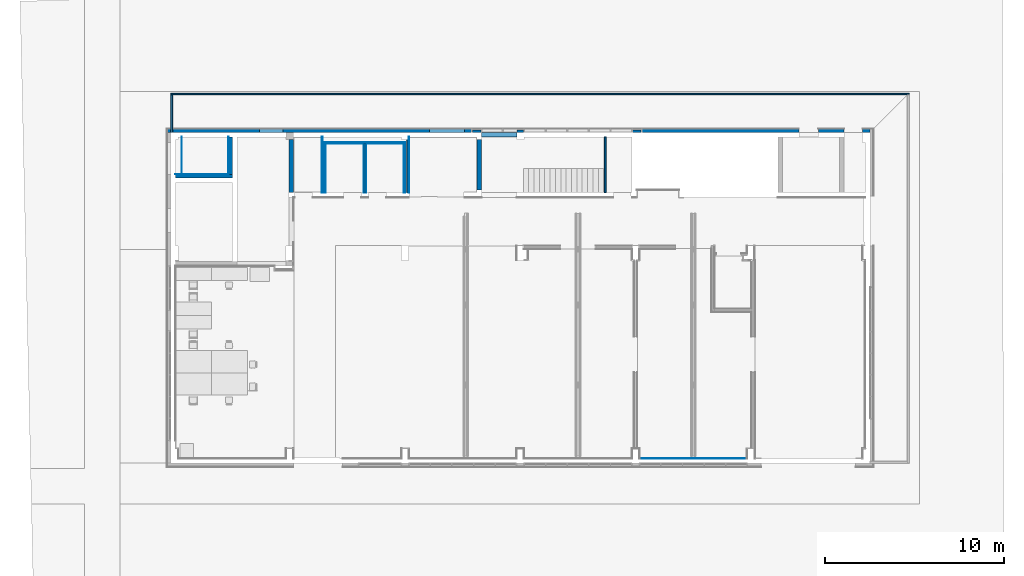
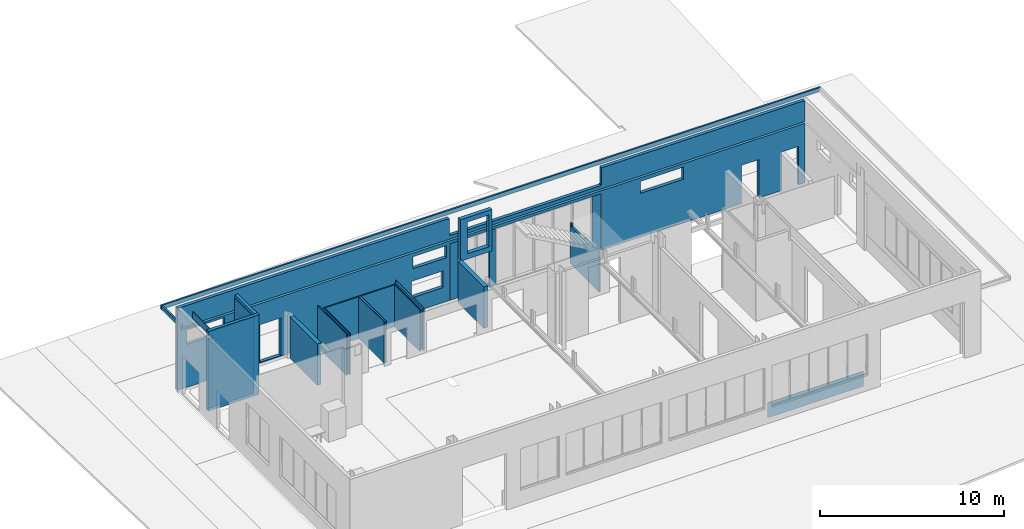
# One storey, part 15 of 27: 30 walls, 15 openings.
"""IFC2X3 building model written with IfcOpenShell, lengths in centimetres."""

from ifc_helpers import new_model, entity, si_unit, converted_unit, derived_unit, direction, frame, frame_2d, origin, origin_2d_with_axis, place, context, subcontext, project, spatial, polyline, rectangle, outline, extrude, clip, bounded_halfspace, faceted_brep, material, layer, layer_set, layer_usage, type_object, element, save


model = new_model("IFC2X3")

# Units and contexts
model_context = context("Model", 3, precision=0.001, world=origin(), true_north=direction((6.12303176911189e-17, 1.0)))
body_context = subcontext(model_context, "Body", "Model", "MODEL_VIEW")
ifc_project = project(units=[si_unit("LENGTHUNIT", "METRE", prefix="CENTI"), si_unit("AREAUNIT", "SQUARE_METRE"), si_unit("VOLUMEUNIT", "CUBIC_METRE"), converted_unit("PLANEANGLEUNIT", "DEGREE", entity("IfcRatioMeasure", 0.0174532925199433), si_unit("PLANEANGLEUNIT", "RADIAN"), dimensions=[0, 0, 0, 0, 0, 0, 0]), si_unit("MASSUNIT", "GRAM", prefix="KILO"), derived_unit("MASSDENSITYUNIT", [(si_unit("MASSUNIT", "GRAM", prefix="KILO"), 1), (si_unit("LENGTHUNIT", "METRE"), -3)]), derived_unit("MOMENTOFINERTIAUNIT", [(si_unit("LENGTHUNIT", "METRE"), 4)]), si_unit("TIMEUNIT", "SECOND"), si_unit("FREQUENCYUNIT", "HERTZ"), si_unit("THERMODYNAMICTEMPERATUREUNIT", "DEGREE_CELSIUS"), derived_unit("THERMALTRANSMITTANCEUNIT", [(si_unit("MASSUNIT", "GRAM", prefix="KILO"), 1), (si_unit("THERMODYNAMICTEMPERATUREUNIT", "KELVIN"), -1), (si_unit("TIMEUNIT", "SECOND"), -3)]), derived_unit("VOLUMETRICFLOWRATEUNIT", [(si_unit("LENGTHUNIT", "METRE"), 3), (si_unit("TIMEUNIT", "SECOND"), -1)]), si_unit("ELECTRICCURRENTUNIT", "AMPERE"), si_unit("ELECTRICVOLTAGEUNIT", "VOLT"), si_unit("POWERUNIT", "WATT"), si_unit("FORCEUNIT", "NEWTON", prefix="KILO"), si_unit("ILLUMINANCEUNIT", "LUX"), si_unit("LUMINOUSFLUXUNIT", "LUMEN"), si_unit("LUMINOUSINTENSITYUNIT", "CANDELA"), derived_unit("USERDEFINED", [(si_unit("MASSUNIT", "GRAM", prefix="KILO"), -1), (si_unit("LENGTHUNIT", "METRE"), -2), (si_unit("TIMEUNIT", "SECOND"), 3), (si_unit("LUMINOUSFLUXUNIT", "LUMEN"), 1)]), derived_unit("LINEARVELOCITYUNIT", [(si_unit("LENGTHUNIT", "METRE"), 1), (si_unit("TIMEUNIT", "SECOND"), -1)]), si_unit("PRESSUREUNIT", "PASCAL"), derived_unit("USERDEFINED", [(si_unit("LENGTHUNIT", "METRE"), -2), (si_unit("MASSUNIT", "GRAM", prefix="KILO"), 1), (si_unit("TIMEUNIT", "SECOND"), -2)]), derived_unit("LINEARFORCEUNIT", [(si_unit("MASSUNIT", "GRAM", prefix="KILO"), 1), (si_unit("LENGTHUNIT", "METRE"), 1), (si_unit("TIMEUNIT", "SECOND"), -2), (si_unit("LENGTHUNIT", "METRE"), -1)]), derived_unit("PLANARFORCEUNIT", [(si_unit("MASSUNIT", "GRAM", prefix="KILO"), 1), (si_unit("LENGTHUNIT", "METRE"), 1), (si_unit("TIMEUNIT", "SECOND"), -2), (si_unit("LENGTHUNIT", "METRE"), -2)])], contexts=[model_context])

# Site, building, storey
site_placement = place(None, origin())
site = spatial("IfcSite", under=ifc_project, at=site_placement, Name="Default", CompositionType="ELEMENT")
building_placement = place(site_placement, origin())
building = spatial("IfcBuilding", under=site, at=building_placement, CompositionType="ELEMENT")
storey_placement = place(building_placement, origin())
storey = spatial("IfcBuildingStorey", under=building, at=storey_placement, Name="Poziom 0 A +/-0,00", CompositionType="ELEMENT", Elevation=3.38570427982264e-11)

# Wall
ifc_material_1 = material(Name="_Beton C30/37")
ifc_layer_1 = layer(ifc_material_1, 25.0)
ifc_layer_set_1 = layer_set([ifc_layer_1], Name="Ściana podstawowa:Ściana żelbetowa gr. 25cm")
ifc_layer_usage_1 = layer_usage(ifc_layer_set_1, "AXIS2", "NEGATIVE", 12.5)
wall_type_1 = type_object("IfcWallType", Name="Ściana podstawowa:Ściana żelbetowa gr. 25cm", PredefinedType="STANDARD", material=ifc_layer_set_1)
wall_1_placement = place(storey_placement, frame((-2261.76512441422, 2065.12745206, 0.0), z_axis=(0.0, 0.0, 1.0), x_axis=(0.0, -1.0, 0.0)))
element("IfcWallStandardCase", 1, at=wall_1_placement, inside=storey, type_object=wall_type_1, material=ifc_layer_usage_1, Name="Ściana podstawowa:Ściana żelbetowa gr. 25cm", ObjectType="Ściana podstawowa:Ściana żelbetowa gr. 25cm", context=body_context, shape_type="SweptSolid", body=[
    extrude(rectangle(XDim=297.000000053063, YDim=25.0000000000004, at=frame_2d((148.500000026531, 2.66453525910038e-15), x_axis=(-1.0, 0.0))), origin(), (0.0, 0.0, 1.0), 274.999999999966),
])

# Wall, openings
ifc_layer_usage_2 = layer_usage(ifc_layer_set_1, "AXIS2", "NEGATIVE", 12.5)
wall_2_placement = place(storey_placement, frame((-1196.76508927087, 2092.627452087, 255.0)))
wall_2 = element("IfcWallStandardCase", 2, at=wall_2_placement, inside=storey, type_object=wall_type_1, material=ifc_layer_usage_2, Name="Ściana podstawowa:Ściana żelbetowa gr. 25cm", ObjectType="Ściana podstawowa:Ściana żelbetowa gr. 25cm", context=body_context, shape_type="SweptSolid", body=[
    extrude(rectangle(XDim=197.499980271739, YDim=25.0000000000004, at=frame_2d((98.7499901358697, 0.0), x_axis=(-1.0, 0.0))), origin(), (0.0, 0.0, 1.0), 274.999999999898),
])
opening_1_placement = place(wall_2_placement, origin())
element("IfcOpeningElement", 3, at=opening_1_placement, cuts=wall_2, Name="Ściana podstawowa:Ściana żelbetowa gr. 25cm", ObjectType="Opening", context=body_context, shape_type="SweptSolid", body=[
    extrude(rectangle(XDim=265.0, YDim=197.5, at=frame_2d((0.0, -1.06581410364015e-13), x_axis=(1.0, 0.0))), frame((98.7499802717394, -139.9, -132.5), z_axis=(0.0, 1.0, 0.0), x_axis=(0.0, 0.0, -1.0)), (0.0, 0.0, 1.0), 304.8),
])
opening_2_placement = place(wall_2_placement, origin())
element("IfcOpeningElement", 4, at=opening_2_placement, cuts=wall_2, Name="Ściana podstawowa:Ściana żelbetowa gr. 25cm", ObjectType="Opening", context=body_context, shape_type="SweptSolid", body=[
    extrude(rectangle(XDim=210.0, YDim=135.0, at=frame_2d((-2.8421709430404e-14, 0.0), x_axis=(1.0, 0.0))), frame((109.999980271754, -139.9, 140.0), z_axis=(0.0, 1.0, 0.0), x_axis=(0.0, 0.0, -1.0)), (0.0, 0.0, 1.0), 304.8),
])

# Walls
ifc_layer_usage_3 = layer_usage(ifc_layer_set_1, "AXIS2", "NEGATIVE", 12.5)
wall_3_placement = place(storey_placement, frame((-1209.26499418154, 2065.12743141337, 0.0), z_axis=(0.0, 0.0, 1.0), x_axis=(0.0, -1.0, 0.0)))
element("IfcWallStandardCase", 5, at=wall_3_placement, inside=storey, type_object=wall_type_1, material=ifc_layer_usage_3, Name="Ściana podstawowa:Ściana żelbetowa gr. 25cm", ObjectType="Ściana podstawowa:Ściana żelbetowa gr. 25cm", context=body_context, shape_type="SweptSolid", body=[
    extrude(rectangle(XDim=282.0, YDim=24.9999999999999, at=frame_2d((141.0, 0.0), x_axis=(-1.0, 0.0))), origin(), (0.0, 0.0, 1.0), 274.999999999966),
])
ifc_material_2 = material(Name="Wełna skalna")
ifc_layer_2 = layer(ifc_material_2, 10.0)
ifc_layer_set_2 = layer_set([ifc_layer_2], Name="Ściana podstawowa:Ściana GK rdzeń gr. 10cm")
ifc_layer_usage_4 = layer_usage(ifc_layer_set_2, "AXIS2", "POSITIVE", -5.0)
wall_type_2 = type_object("IfcWallType", Name="Ściana podstawowa:Ściana GK rdzeń gr. 10cm", PredefinedType="STANDARD", material=ifc_layer_set_2)
wall_4_placement = place(storey_placement, frame((-1849.26511107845, 1768.12745200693, 0.0), z_axis=(0.0, 0.0, 1.0), x_axis=(0.0, 1.0, 0.0)))
element("IfcWallStandardCase", 6, at=wall_4_placement, inside=storey, type_object=wall_type_2, material=ifc_layer_usage_4, Name="Ściana podstawowa:Ściana GK rdzeń gr. 10cm", ObjectType="Ściana podstawowa:Ściana GK rdzeń gr. 10cm", context=body_context, shape_type="SweptSolid", body=[
    extrude(rectangle(XDim=276.00000006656, YDim=9.99999999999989, at=frame_2d((138.00000003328, 0.0), x_axis=(-1.0, 0.0))), origin(), (0.0, 0.0, 1.0), 274.999999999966),
])
ifc_layer_usage_5 = layer_usage(ifc_layer_set_2, "AXIS2", "POSITIVE", -5.0)
wall_5_placement = place(storey_placement, frame((-1609.26511963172, 2065.1274520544, 0.0), z_axis=(0.0, 0.0, 1.0), x_axis=(0.0, -1.0, 0.0)))
element("IfcWallStandardCase", 7, at=wall_5_placement, inside=storey, type_object=wall_type_2, material=ifc_layer_usage_5, Name="Ściana podstawowa:Ściana GK rdzeń gr. 10cm", ObjectType="Ściana podstawowa:Ściana GK rdzeń gr. 10cm", context=body_context, shape_type="SweptSolid", body=[
    extrude(rectangle(XDim=297.00000004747, YDim=9.99999999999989, at=frame_2d((148.500000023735, 0.0), x_axis=(-1.0, 0.0))), origin(), (0.0, 0.0, 1.0), 274.999999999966),
])

# Wall, openings
ifc_layer_usage_6 = layer_usage(ifc_layer_set_2, "AXIS2", "POSITIVE", -5.0)
wall_6_placement = place(storey_placement, frame((-504.265108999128, 2080.12743150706, 0.0), z_axis=(0.0, 0.0, 1.0), x_axis=(0.0, -1.0, 0.0)))
wall_6 = element("IfcWallStandardCase", 8, at=wall_6_placement, inside=storey, type_object=wall_type_2, material=ifc_layer_usage_6, Name="Ściana podstawowa:Ściana GK rdzeń gr. 10cm", ObjectType="Ściana podstawowa:Ściana GK rdzeń gr. 10cm", context=body_context, shape_type="SweptSolid", body=[
    extrude(rectangle(XDim=311.999979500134, YDim=9.99999999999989, at=frame_2d((155.999989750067, 0.0), x_axis=(-1.0, 0.0))), origin(), (0.0, 0.0, 1.0), 270.999999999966),
])
opening_3_placement = place(wall_6_placement, frame((154.999979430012, -5.0, 249.413174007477)))
element("IfcOpeningElement", 9, at=opening_3_placement, cuts=wall_6, Name="Ściana podstawowa:Ściana GK rdzeń gr. 10cm", ObjectType="Opening", context=body_context, shape_type="Brep", body=[
    faceted_brep([(-140.0, 10.0, 5.68627449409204), (-140.0, 0.0, 0.0), (-140.0, 0.0, 23.5296505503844), (-140.0, 10.0, 23.5296505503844), (0.0, 10.0, 5.68627449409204), (0.0, 10.0, 23.5296505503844), (0.0, 0.0, 23.5296505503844), (0.0, 0.0, 0.0)], [[[0, 1, 2, 3]], [[4, 5, 6, 7]], [[5, 4, 0, 3]], [[6, 5, 3, 2]], [[7, 6, 2, 1]], [[4, 7, 1, 0]]]),
])
opening_4_placement = place(wall_6_placement, origin())
element("IfcOpeningElement", 10, at=opening_4_placement, cuts=wall_6, Name="Ściana podstawowa:Ściana GK rdzeń gr. 10cm", ObjectType="Opening", context=body_context, shape_type="SweptSolid", body=[
    extrude(rectangle(XDim=10.0000000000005, YDim=139.99999998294, at=frame_2d((-1.35447209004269e-13, -1.06581410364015e-13), x_axis=(1.0, 0.0))), frame((84.9999794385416, 5.0, 266.0), z_axis=(0.0, -1.0, 0.0), x_axis=(0.0, 0.0, -1.0)), (0.0, 0.0, 1.0), 10.0),
])

# Walls
ifc_layer_3 = layer(ifc_material_2, 5.0)
ifc_layer_set_3 = layer_set([ifc_layer_3], Name="Ściana podstawowa:Ściana GK rdzeń gr. 5cm")
ifc_layer_usage_7 = layer_usage(ifc_layer_set_3, "AXIS2", "NEGATIVE", 2.5)
wall_type_3 = type_object("IfcWallType", Name="Ściana podstawowa:Ściana GK rdzeń gr. 5cm", PredefinedType="STANDARD", material=ifc_layer_set_3)
wall_7_placement = place(storey_placement, frame((-2086.76512827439, 1768.12745202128, 0.0), z_axis=(0.0, 0.0, 1.0), x_axis=(0.0, 1.0, 0.0)))
element("IfcWallStandardCase", 11, at=wall_7_placement, inside=storey, type_object=wall_type_3, material=ifc_layer_usage_7, Name="Ściana podstawowa:Ściana GK rdzeń gr. 5cm", ObjectType="Ściana podstawowa:Ściana GK rdzeń gr. 5cm", context=body_context, shape_type="SweptSolid", body=[
    extrude(rectangle(XDim=312.000000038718, YDim=4.99999999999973, at=frame_2d((156.000000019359, 0.0), x_axis=(-1.0, 0.0))), origin(), (0.0, 0.0, 1.0), 274.999999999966),
])
ifc_layer_usage_8 = layer_usage(ifc_layer_set_3, "AXIS2", "NEGATIVE", 2.5)
wall_8_placement = place(storey_placement, frame((-2071.76512826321, 1768.12745202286, 0.0), z_axis=(0.0, 0.0, 1.0), x_axis=(0.0, 1.0, 0.0)))
element("IfcWallStandardCase", 12, at=wall_8_placement, inside=storey, type_object=wall_type_3, material=ifc_layer_usage_8, Name="Ściana podstawowa:Ściana GK rdzeń gr. 5cm", ObjectType="Ściana podstawowa:Ściana GK rdzeń gr. 5cm", context=body_context, shape_type="SweptSolid", body=[
    extrude(rectangle(XDim=276.000000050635, YDim=4.99999999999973, at=frame_2d((138.000000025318, -3.77475828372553e-15), x_axis=(-1.0, 0.0))), origin(), (0.0, 0.0, 1.0), 274.999999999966),
])
ifc_layer_usage_9 = layer_usage(ifc_layer_set_3, "AXIS2", "NEGATIVE", 2.5)
wall_9_placement = place(storey_placement, frame((-2074.26512826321, 2046.6274520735, 0.0)))
element("IfcWallStandardCase", 13, at=wall_9_placement, inside=storey, type_object=wall_type_3, material=ifc_layer_usage_9, Name="Ściana podstawowa:Ściana GK rdzeń gr. 5cm", ObjectType="Ściana podstawowa:Ściana GK rdzeń gr. 5cm", context=body_context, shape_type="SweptSolid", body=[
    extrude(rectangle(XDim=450.000019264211, YDim=4.99999999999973, at=frame_2d((225.000009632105, 0.0), x_axis=(-1.0, 0.0))), origin(), (0.0, 0.0, 1.0), 274.999999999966),
])
ifc_layer_usage_10 = layer_usage(ifc_layer_set_3, "AXIS2", "NEGATIVE", 2.5)
wall_10_placement = place(storey_placement, frame((-1626.765108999, 2044.12745207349, 0.0), z_axis=(0.0, 0.0, 1.0), x_axis=(0.0, -1.0, 0.0)))
element("IfcWallStandardCase", 14, at=wall_10_placement, inside=storey, type_object=wall_type_3, material=ifc_layer_usage_10, Name="Ściana podstawowa:Ściana GK rdzeń gr. 5cm", ObjectType="Ściana podstawowa:Ściana GK rdzeń gr. 5cm", context=body_context, shape_type="SweptSolid", body=[
    extrude(rectangle(XDim=276.000000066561, YDim=5.00000000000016, at=frame_2d((138.00000003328, -3.77475828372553e-15), x_axis=(-1.0, 0.0))), origin(), (0.0, 0.0, 1.0), 274.999999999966),
])
ifc_layer_4 = layer(ifc_material_1, 10.0)
ifc_layer_set_4 = layer_set([ifc_layer_4], Name="Ściana podstawowa:Ściana daszku gr. 10cm")
ifc_layer_usage_11 = layer_usage(ifc_layer_set_4, "AXIS2", "NEGATIVE", 5.0)
wall_type_4 = type_object("IfcWallType", Name="Ściana podstawowa:Ściana daszku gr. 10cm", PredefinedType="STANDARD", material=ifc_layer_set_4)
wall_11_placement = place(storey_placement, frame((-2929.26510657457, 2105.12745207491, 402.190909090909), z_axis=(0.0, 0.0, 1.0), x_axis=(0.0, 1.0, 0.0)))
element("IfcWallStandardCase", 15, at=wall_11_placement, inside=storey, type_object=wall_type_4, material=ifc_layer_usage_11, Name="Ściana podstawowa:Ściana daszku gr. 10cm", ObjectType="Ściana podstawowa:Ściana daszku gr. 10cm", context=body_context, shape_type="Clipping", body=[
    clip(extrude(rectangle(XDim=210.000000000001, YDim=10.0000000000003, at=frame_2d((105.0, -9.76996261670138e-15), x_axis=(-1.0, 0.0))), origin(), (0.0, 0.0, 1.0), 26.3090909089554), bounded_halfspace(frame((210.0, -5.0, 0.0), z_axis=(0.0190874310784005, 0.0, 0.999817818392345), x_axis=(0.0, -1.0, 0.0)), True, frame((210.0, -5.0, 0.0), z_axis=(0.0190874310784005, 0.0, 0.999817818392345), x_axis=(0.0, -1.0, 0.0)), polyline([(0.0, 0.0), (-10.0, 0.0), (-10.0, -210.038265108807), (0.0, -210.038265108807), (0.0, -190.034620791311), (0.0, -188.034256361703), (0.0, 0.0)]))),
])
ifc_layer_usage_12 = layer_usage(ifc_layer_set_4, "AXIS2", "NEGATIVE", 5.0)
wall_12_placement = place(storey_placement, frame((-2934.26510657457, 2320.12745207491, 402.0)))
element("IfcWallStandardCase", 16, at=wall_12_placement, inside=storey, type_object=wall_type_4, material=ifc_layer_usage_12, Name="Ściana podstawowa:Ściana daszku gr. 10cm", ObjectType="Ściana podstawowa:Ściana daszku gr. 10cm", context=body_context, shape_type="SweptSolid", body=[
    extrude(rectangle(XDim=4130.00000118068, YDim=10.0000000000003, at=frame_2d((2065.00000059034, 0.0), x_axis=(-1.0, 0.0))), origin(), (0.0, 0.0, 1.0), 26.4999999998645),
])
ifc_material_3 = material(Name="Tynk gipsowy")
ifc_layer_5 = layer(ifc_material_3, 2.5)
ifc_layer_set_5 = layer_set([ifc_layer_5], Name="Ściana podstawowa:Ściana GK wykonczenie gr. 2,5cm")
ifc_layer_usage_13 = layer_usage(ifc_layer_set_5, "AXIS2", "NEGATIVE", 1.25)
wall_type_5 = type_object("IfcWallType", Name="Ściana podstawowa:Ściana GK wykonczenie gr. 2,5cm", PredefinedType="STANDARD", material=ifc_layer_set_5)
wall_13_placement = place(storey_placement, frame((-2090.51512827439, 2080.12745206, 0.0), z_axis=(0.0, 0.0, 1.0), x_axis=(0.0, -1.0, 0.0)))
element("IfcWallStandardCase", 17, at=wall_13_placement, inside=storey, type_object=wall_type_5, material=ifc_layer_usage_13, Name="Ściana podstawowa:Ściana GK wykonczenie gr. 2,5cm", ObjectType="Ściana podstawowa:Ściana GK wykonczenie gr. 2,5cm", context=body_context, shape_type="SweptSolid", body=[
    extrude(rectangle(XDim=312.000000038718, YDim=2.5000000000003, at=frame_2d((156.000000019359, 0.0), x_axis=(-1.0, 0.0))), origin(), (0.0, 0.0, 1.0), 274.999999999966),
])
ifc_layer_usage_14 = layer_usage(ifc_layer_set_5, "AXIS2", "NEGATIVE", 1.25)
wall_14_placement = place(storey_placement, frame((-2068.01512826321, 1768.12745202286, 0.0), z_axis=(0.0, 0.0, 1.0), x_axis=(0.0, 1.0, 0.0)))
element("IfcWallStandardCase", 18, at=wall_14_placement, inside=storey, type_object=wall_type_5, material=ifc_layer_usage_14, Name="Ściana podstawowa:Ściana GK wykonczenie gr. 2,5cm", ObjectType="Ściana podstawowa:Ściana GK wykonczenie gr. 2,5cm", context=body_context, shape_type="SweptSolid", body=[
    extrude(rectangle(XDim=276.000000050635, YDim=2.5000000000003, at=frame_2d((138.000000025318, 0.0), x_axis=(-1.0, 0.0))), origin(), (0.0, 0.0, 1.0), 274.999999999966),
])
ifc_layer_usage_15 = layer_usage(ifc_layer_set_5, "AXIS2", "NEGATIVE", 1.25)
wall_15_placement = place(storey_placement, frame((-2069.26512826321, 2042.87745207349, -2.0)))
element("IfcWallStandardCase", 19, at=wall_15_placement, inside=storey, type_object=wall_type_5, material=ifc_layer_usage_15, Name="Ściana podstawowa:Ściana GK wykonczenie gr. 2,5cm", ObjectType="Ściana podstawowa:Ściana GK wykonczenie gr. 2,5cm", context=body_context, shape_type="SweptSolid", body=[
    extrude(rectangle(XDim=215.000017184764, YDim=2.5000000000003, at=frame_2d((107.500008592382, 0.0), x_axis=(-1.0, 0.0))), origin(), (0.0, 0.0, 1.0), 276.999999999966),
])
ifc_layer_usage_16 = layer_usage(ifc_layer_set_5, "AXIS2", "NEGATIVE", 1.25)
wall_16_placement = place(storey_placement, frame((-1855.51511107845, 2044.12745207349, -2.0), z_axis=(0.0, 0.0, 1.0), x_axis=(0.0, -1.0, 0.0)))
element("IfcWallStandardCase", 20, at=wall_16_placement, inside=storey, type_object=wall_type_5, material=ifc_layer_usage_16, Name="Ściana podstawowa:Ściana GK wykonczenie gr. 2,5cm", ObjectType="Ściana podstawowa:Ściana GK wykonczenie gr. 2,5cm", context=body_context, shape_type="SweptSolid", body=[
    extrude(rectangle(XDim=276.00000006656, YDim=2.49999999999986, at=frame_2d((138.00000003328, 0.0), x_axis=(-1.0, 0.0))), origin(), (0.0, 0.0, 1.0), 276.999999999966),
])
ifc_layer_usage_17 = layer_usage(ifc_layer_set_5, "AXIS2", "NEGATIVE", 1.25)
wall_17_placement = place(storey_placement, frame((-1843.01511107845, 1768.12745200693, -2.0), z_axis=(0.0, 0.0, 1.0), x_axis=(0.0, 1.0, 0.0)))
element("IfcWallStandardCase", 21, at=wall_17_placement, inside=storey, type_object=wall_type_5, material=ifc_layer_usage_17, Name="Ściana podstawowa:Ściana GK wykonczenie gr. 2,5cm", ObjectType="Ściana podstawowa:Ściana GK wykonczenie gr. 2,5cm", context=body_context, shape_type="SweptSolid", body=[
    extrude(rectangle(XDim=276.00000006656, YDim=2.49999999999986, at=frame_2d((138.00000003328, 0.0), x_axis=(-1.0, 0.0))), origin(), (0.0, 0.0, 1.0), 276.999999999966),
])
ifc_layer_usage_18 = layer_usage(ifc_layer_set_5, "AXIS2", "NEGATIVE", 1.25)
wall_18_placement = place(storey_placement, frame((-1844.26511107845, 2042.87745207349, -2.0)))
element("IfcWallStandardCase", 22, at=wall_18_placement, inside=storey, type_object=wall_type_5, material=ifc_layer_usage_18, Name="Ściana podstawowa:Ściana GK wykonczenie gr. 2,5cm", ObjectType="Ściana podstawowa:Ściana GK wykonczenie gr. 2,5cm", context=body_context, shape_type="SweptSolid", body=[
    extrude(rectangle(XDim=215.000002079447, YDim=2.5000000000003, at=frame_2d((107.500001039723, 0.0), x_axis=(-1.0, 0.0))), origin(), (0.0, 0.0, 1.0), 276.999999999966),
])
ifc_layer_usage_19 = layer_usage(ifc_layer_set_5, "AXIS2", "NEGATIVE", 1.25)
wall_19_placement = place(storey_placement, frame((-1630.515108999, 2044.12745207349, -2.0), z_axis=(0.0, 0.0, 1.0), x_axis=(0.0, -1.0, 0.0)))
element("IfcWallStandardCase", 23, at=wall_19_placement, inside=storey, type_object=wall_type_5, material=ifc_layer_usage_19, Name="Ściana podstawowa:Ściana GK wykonczenie gr. 2,5cm", ObjectType="Ściana podstawowa:Ściana GK wykonczenie gr. 2,5cm", context=body_context, shape_type="SweptSolid", body=[
    extrude(rectangle(XDim=276.00000006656, YDim=2.49999999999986, at=frame_2d((138.00000003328, 0.0), x_axis=(-1.0, 0.0))), origin(), (0.0, 0.0, 1.0), 276.999999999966),
])
ifc_layer_usage_20 = layer_usage(ifc_layer_set_5, "AXIS2", "NEGATIVE", 1.25)
wall_20_placement = place(storey_placement, frame((-1603.01498890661, 1768.12745200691, -2.0), z_axis=(0.0, 0.0, 1.0), x_axis=(0.0, 1.0, 0.0)))
element("IfcWallStandardCase", 24, at=wall_20_placement, inside=storey, type_object=wall_type_5, material=ifc_layer_usage_20, Name="Ściana podstawowa:Ściana GK wykonczenie gr. 2,5cm", ObjectType="Ściana podstawowa:Ściana GK wykonczenie gr. 2,5cm", context=body_context, shape_type="SweptSolid", body=[
    extrude(rectangle(XDim=311.999979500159, YDim=2.49999999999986, at=frame_2d((155.99998975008, 0.0), x_axis=(-1.0, 0.0))), origin(), (0.0, 0.0, 1.0), 276.999999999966),
])
ifc_layer_6 = layer(ifc_material_3, 2.5)
ifc_layer_set_6 = layer_set([ifc_layer_6], Name="Ściana podstawowa:Tynk wykończenie gr. 2,5cm")
ifc_layer_usage_21 = layer_usage(ifc_layer_set_6, "AXIS2", "POSITIVE", -1.25)
wall_type_6 = type_object("IfcWallType", Name="Ściana podstawowa:Tynk wykończenie gr. 2,5cm", PredefinedType="STANDARD", material=ifc_layer_set_6)
wall_21_placement = place(storey_placement, frame((-311.765234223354, 281.377499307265, 0.0)))
element("IfcWallStandardCase", 25, at=wall_21_placement, inside=storey, type_object=wall_type_6, material=ifc_layer_usage_21, Name="Ściana podstawowa:Tynk wykończenie gr. 2,5cm", ObjectType="Ściana podstawowa:Tynk wykończenie gr. 2,5cm", context=body_context, shape_type="SweptSolid", body=[
    extrude(rectangle(XDim=600.00012442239, YDim=2.49999999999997, at=frame_2d((300.000062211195, 0.0), x_axis=(-1.0, 0.0))), origin(), (0.0, 0.0, 1.0), 100.0),
])

# Wall, openings
ifc_layer_7 = layer(ifc_material_2, 20.0)
ifc_layer_set_7 = layer_set([ifc_layer_7], Name="Ściana podstawowa:Wełna mineralna gr. 20cm")
ifc_layer_usage_22 = layer_usage(ifc_layer_set_7, "AXIS2", "NEGATIVE", 10.0)
wall_type_7 = type_object("IfcWallType", Name="Ściana podstawowa:Wełna mineralna gr. 20cm", PredefinedType="STANDARD", material=ifc_layer_set_7)
wall_22_placement = place(storey_placement, frame((975.734884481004, 2115.12745061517, 0.0), z_axis=(0.0, 0.0, 1.0), x_axis=(-1.0, 0.0, 0.0)))
wall_22 = element("IfcWallStandardCase", 26, at=wall_22_placement, inside=storey, type_object=wall_type_7, material=ifc_layer_usage_22, Name="Ściana podstawowa:Wełna mineralna gr. 20cm", ObjectType="Ściana podstawowa:Wełna mineralna gr. 20cm", context=body_context, shape_type="Clipping", body=[
    clip(extrude(rectangle(XDim=3930.00000508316, YDim=19.9999999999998, at=frame_2d((1965.00000254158, 0.0), x_axis=(-1.0, 0.0))), origin(), (0.0, 0.0, 1.0), 544.999999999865), bounded_halfspace(frame((3909.99999105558, -10.0, 405.81818184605), z_axis=(1.0, 0.0, 0.0), x_axis=(0.0, 0.0, 1.0)), True, frame((3909.99999105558, -10.0, 405.81818184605), z_axis=(1.0, 0.0, 0.0), x_axis=(0.0, 0.0, 1.0)), polyline([(0.0, 0.0), (-12.0, 0.0), (-11.6181818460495, -20.0), (0.381818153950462, -19.999998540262), (0.0, 0.0)]))),
])
opening_5_placement = place(wall_22_placement, origin())
element("IfcOpeningElement", 27, at=opening_5_placement, cuts=wall_22, Name="Ściana podstawowa:Wełna mineralna gr. 20cm", ObjectType="Opening", context=body_context, shape_type="SweptSolid", body=[
    extrude(rectangle(XDim=328.500011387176, YDim=954.499982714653, at=frame_2d((2.8421709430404e-14, 0.0), x_axis=(0.0, 1.0))), frame((1751.25000836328, -25.2399999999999, 596.749994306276), z_axis=(0.0, 1.0, 0.0), x_axis=(-1.0, 0.0, 0.0)), (0.0, 0.0, 1.0), 50.4800000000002),
])
opening_6_placement = place(wall_22_placement, origin())
element("IfcOpeningElement", 28, at=opening_6_placement, cuts=wall_22, Name="Ściana podstawowa:Wełna mineralna gr. 20cm", ObjectType="Opening", context=body_context, shape_type="SweptSolid", body=[
    extrude(rectangle(XDim=374.999999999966, YDim=954.499982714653, at=frame_2d((2.8421709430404e-14, 0.0), x_axis=(0.0, 1.0))), frame((1751.25000836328, -25.2399999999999, 187.499999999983), z_axis=(0.0, 1.0, 0.0), x_axis=(-1.0, 0.0, 0.0)), (0.0, 0.0, 1.0), 50.4800000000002),
])
opening_7_placement = place(wall_22_placement, origin())
element("IfcOpeningElement", 29, at=opening_7_placement, cuts=wall_22, Name="Ściana podstawowa:Wełna mineralna gr. 20cm", ObjectType="Opening", context=body_context, shape_type="SweptSolid", body=[
    extrude(rectangle(XDim=80.0, YDim=210.0, at=frame_2d((0.0, 0.0), x_axis=(0.0, 1.0))), frame((2351.49998153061, 10.0, 330.0), z_axis=(0.0, -1.0, 0.0), x_axis=(-1.0, 0.0, 0.0)), (0.0, 0.0, 1.0), 20.0),
])
opening_8_placement = place(wall_22_placement, origin())
element("IfcOpeningElement", 30, at=opening_8_placement, cuts=wall_22, Name="Ściana podstawowa:Wełna mineralna gr. 20cm", ObjectType="Opening", context=body_context, shape_type="SweptSolid", body=[
    extrude(rectangle(XDim=109.999919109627, YDim=197.000013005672, at=frame_2d((0.0, -1.4210854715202e-14), x_axis=(0.0, 1.0))), frame((2365.49999998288, 10.0, 155.000040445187), z_axis=(0.0, -1.0, 0.0), x_axis=(-1.0, 0.0, 0.0)), (0.0, 0.0, 1.0), 20.0),
])
opening_9_placement = place(wall_22_placement, origin())
element("IfcOpeningElement", 31, at=opening_9_placement, cuts=wall_22, Name="Ściana podstawowa:Wełna mineralna gr. 20cm", ObjectType="Opening", context=body_context, shape_type="SweptSolid", body=[
    extrude(rectangle(XDim=250.0, YDim=130.0, at=frame_2d((2.20268248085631e-13, 0.0), x_axis=(0.0, 1.0))), frame((3348.99489782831, 10.0, 130.187303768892), z_axis=(0.0, -1.0, 0.0), x_axis=(-1.0, 0.0, 0.0)), (0.0, 0.0, 1.0), 20.0),
])
opening_10_placement = place(wall_22_placement, origin())
element("IfcOpeningElement", 32, at=opening_10_placement, cuts=wall_22, Name="Ściana podstawowa:Wełna mineralna gr. 20cm", ObjectType="Opening", context=body_context, shape_type="SweptSolid", body=[
    extrude(rectangle(XDim=80.0, YDim=270.0, at=origin_2d_with_axis()), frame((896.49999082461, 10.0, 330.0), z_axis=(0.0, -1.0, 0.0), x_axis=(0.0, 0.0, 1.0)), (0.0, 0.0, 1.0), 20.0),
])
opening_11_placement = place(wall_22_placement, origin())
element("IfcOpeningElement", 33, at=opening_11_placement, cuts=wall_22, Name="Ściana podstawowa:Wełna mineralna gr. 20cm", ObjectType="Opening", context=body_context, shape_type="SweptSolid", body=[
    extrude(rectangle(XDim=95.0, YDim=234.999997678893, at=frame_2d((2.1316282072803e-13, -2.8421709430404e-14), x_axis=(0.0, 1.0))), frame((3752.49999221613, 10.0, 332.499999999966), z_axis=(0.0, -1.0, 0.0), x_axis=(-1.0, 0.0, 0.0)), (0.0, 0.0, 1.0), 20.0),
])
opening_12_placement = place(wall_22_placement, origin())
element("IfcOpeningElement", 34, at=opening_12_placement, cuts=wall_22, Name="Ściana podstawowa:Wełna mineralna gr. 20cm", ObjectType="Opening", context=body_context, shape_type="SweptSolid", body=[
    extrude(rectangle(XDim=255.000044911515, YDim=104.797753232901, at=frame_2d((0.0, 0.0), x_axis=(0.0, 1.0))), frame((92.3988676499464, 10.0, 127.500022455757), z_axis=(0.0, -1.0, 0.0), x_axis=(1.0, 0.0, 0.0)), (0.0, 0.0, 1.0), 20.0),
])
opening_13_placement = place(wall_22_placement, origin())
element("IfcOpeningElement", 35, at=opening_13_placement, cuts=wall_22, Name="Ściana podstawowa:Wełna mineralna gr. 20cm", ObjectType="Opening", context=body_context, shape_type="SweptSolid", body=[
    extrude(rectangle(XDim=255.000048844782, YDim=110.0, at=frame_2d((0.0, 0.0), x_axis=(0.0, 1.0))), frame((342.500006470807, 10.0, 127.500024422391), z_axis=(0.0, -1.0, 0.0), x_axis=(1.0, 0.0, 0.0)), (0.0, 0.0, 1.0), 20.0),
])
opening_14_placement = place(wall_22_placement, origin())
element("IfcOpeningElement", 36, at=opening_14_placement, cuts=wall_22, Name="Ściana podstawowa:Wełna mineralna gr. 20cm", ObjectType="Opening", context=body_context, shape_type="SweptSolid", body=[
    extrude(rectangle(XDim=374.999999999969, YDim=947.000023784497, at=frame_2d((-8.5265128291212e-14, 0.0), x_axis=(0.0, 1.0))), frame((1754.99998782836, 10.0, 187.499999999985), z_axis=(0.0, -1.0, 0.0), x_axis=(1.0, 0.0, 0.0)), (0.0, 0.0, 1.0), 20.0),
])
opening_15_placement = place(wall_22_placement, origin())
element("IfcOpeningElement", 37, at=opening_15_placement, cuts=wall_22, Name="Ściana podstawowa:Wełna mineralna gr. 20cm", ObjectType="Opening", context=body_context, shape_type="SweptSolid", body=[
    extrude(outline(polyline([(37.5867207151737, -1452.50000216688), (39.4566396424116, -1452.50000216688), (39.4566396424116, 1198.4999989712), (-77.0433603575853, 1198.4999989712), (-77.0433603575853, 254.000003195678), (37.5867207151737, 254.000003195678), (37.5867207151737, -1452.50000216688)])), frame((2477.50000291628, 10.0, 505.543360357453), z_axis=(0.0, -1.0, 0.0), x_axis=(0.0, 0.0, 1.0)), (0.0, 0.0, 1.0), 20.0),
])

# Walls
ifc_layer_usage_23 = layer_usage(ifc_layer_set_7, "AXIS2", "NEGATIVE", 10.0)
wall_23_placement = place(storey_placement, frame((-2600.76511650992, 1870.1715304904, 2.0), z_axis=(0.0, 0.0, 1.0), x_axis=(0.0, 1.0, 0.0)))
element("IfcWallStandardCase", 38, at=wall_23_placement, inside=storey, type_object=wall_type_7, material=ifc_layer_usage_23, Name="Ściana podstawowa:Wełna mineralna gr. 20cm", ObjectType="Ściana podstawowa:Wełna mineralna gr. 20cm", context=body_context, shape_type="Clipping", body=[
    clip(clip(clip(extrude(rectangle(XDim=209.955921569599, YDim=19.9999999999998, at=frame_2d((104.977960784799, -2.04281036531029e-14), x_axis=(-1.0, 0.0))), origin(), (0.0, 0.0, 1.0), 527.999999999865), bounded_halfspace(frame((0.0, 9.49999120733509, 508.0), z_axis=(0.0, 0.0, -1.0), x_axis=(-1.0, 0.0, 0.0)), True, frame((0.0, 9.49999120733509, 508.0), z_axis=(0.0, 0.0, -1.0), x_axis=(-1.0, 0.0, 0.0)), polyline([(0.0, 0.0), (0.0, 0.500008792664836), (-209.955921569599, 0.500008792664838), (-209.9559215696, 0.0), (0.0, 0.0)]))), bounded_halfspace(frame((209.955921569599, 9.49999120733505, 508.0), z_axis=(0.0, -1.0, 0.0), x_axis=(0.0, 0.0, 1.0)), True, frame((209.955921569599, 9.49999120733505, 508.0), z_axis=(0.0, -1.0, 0.0), x_axis=(0.0, 0.0, 1.0)), polyline([(0.0, 0.0), (20.0, 0.0), (20.0, 209.955921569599), (0.0, 209.9559215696), (0.0, 0.0)]))), bounded_halfspace(frame((209.955921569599, -10.0, 0.0)), True, frame((209.955921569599, -10.0, 0.0)), polyline([(0.0, 0.0), (0.0, 20.0), (-209.955921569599, 20.0), (-209.955921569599, 0.0), (0.0, 0.0)]))),
])
ifc_layer_usage_24 = layer_usage(ifc_layer_set_7, "AXIS2", "NEGATIVE", 10.0)
wall_24_placement = place(storey_placement, frame((-2909.26510525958, 1860.1715304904, 0.0)))
element("IfcWallStandardCase", 39, at=wall_24_placement, inside=storey, type_object=wall_type_7, material=ifc_layer_usage_24, Name="Ściana podstawowa:Wełna mineralna gr. 20cm", ObjectType="Ściana podstawowa:Wełna mineralna gr. 20cm", context=body_context, shape_type="Clipping", body=[
    clip(clip(extrude(rectangle(XDim=318.499988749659, YDim=19.9999999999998, at=frame_2d((159.24999437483, 1.77635683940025e-14), x_axis=(-1.0, 0.0))), origin(), (0.0, 0.0, 1.0), 529.999999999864), bounded_halfspace(frame((0.499996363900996, -10.0, 2.0), z_axis=(0.0, 0.0, 1.0), x_axis=(0.0, 1.0, 0.0)), True, frame((0.499996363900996, -10.0, 2.0), z_axis=(0.0, 0.0, 1.0), x_axis=(0.0, 1.0, 0.0)), polyline([(0.0, 0.0), (0.0, -317.999992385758), (20.0, -317.999992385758), (20.0, -297.999992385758), (20.0, 0.0), (0.0, 0.0)]))), bounded_halfspace(frame((0.499996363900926, 10.0, 2.0), z_axis=(-1.0, 0.0, 0.0), x_axis=(0.0, 0.0, 1.0)), True, frame((0.499996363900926, 10.0, 2.0), z_axis=(-1.0, 0.0, 0.0), x_axis=(0.0, 0.0, 1.0)), polyline([(0.0, 0.0), (-2.0, 0.0), (-2.0, -20.0), (0.0, -20.0), (0.0, 0.0)]))),
])
ifc_layer_8 = layer(ifc_material_2, 15.0)
ifc_layer_set_8 = layer_set([ifc_layer_8], Name="Ściana podstawowa:Wełna mineralna gr. 15cm")
ifc_layer_usage_25 = layer_usage(ifc_layer_set_8, "AXIS2", "NEGATIVE", 7.5)
wall_type_8 = type_object("IfcWallType", Name="Ściana podstawowa:Wełna mineralna gr. 15cm", PredefinedType="STANDARD", material=ifc_layer_set_8)
wall_25_placement = place(storey_placement, frame((-1247.7651152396, 2112.62745206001, 0.0)))
element("IfcWallStandardCase", 40, at=wall_25_placement, inside=storey, type_object=wall_type_8, material=ifc_layer_usage_25, Name="Ściana podstawowa:Wełna mineralna gr. 15cm", ObjectType="Ściana podstawowa:Wełna mineralna gr. 15cm", context=body_context, shape_type="SweptSolid", body=[
    extrude(rectangle(XDim=48.5000116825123, YDim=15.0000000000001, at=frame_2d((24.2500058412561, 0.0), x_axis=(-1.0, 0.0))), origin(), (0.0, 0.0, 1.0), 374.999999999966),
])
ifc_layer_usage_26 = layer_usage(ifc_layer_set_8, "AXIS2", "NEGATIVE", 7.5)
wall_26_placement = place(storey_placement, frame((-354.265091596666, 2112.62745206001, 0.0)))
element("IfcWallStandardCase", 41, at=wall_26_placement, inside=storey, type_object=wall_type_8, material=ifc_layer_usage_26, Name="Ściana podstawowa:Wełna mineralna gr. 15cm", ObjectType="Ściana podstawowa:Wełna mineralna gr. 15cm", context=body_context, shape_type="SweptSolid", body=[
    extrude(rectangle(XDim=48.5000001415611, YDim=15.0000000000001, at=frame_2d((24.2500000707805, 0.0), x_axis=(-1.0, 0.0))), origin(), (0.0, 0.0, 1.0), 374.999999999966),
])
ifc_layer_usage_27 = layer_usage(ifc_layer_set_8, "AXIS2", "NEGATIVE", 7.5)
wall_27_placement = place(storey_placement, frame((-999.265105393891, 2112.62745206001, 0.0)))
element("IfcWallStandardCase", 42, at=wall_27_placement, inside=storey, type_object=wall_type_8, material=ifc_layer_usage_27, Name="Ściana podstawowa:Wełna mineralna gr. 15cm", ObjectType="Ściana podstawowa:Wełna mineralna gr. 15cm", context=body_context, shape_type="SweptSolid", body=[
    extrude(rectangle(XDim=37.5000084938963, YDim=15.0000000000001, at=frame_2d((18.7500042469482, 0.0), x_axis=(-1.0, 0.0))), origin(), (0.0, 0.0, 1.0), 374.999999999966),
])
ifc_layer_9 = layer(ifc_material_3, 2.0)
ifc_layer_set_9 = layer_set([ifc_layer_9], Name="Ściana podstawowa:Tynk wewnętrzny gr. 2cm")
ifc_layer_usage_28 = layer_usage(ifc_layer_set_9, "AXIS2", "NEGATIVE", 1.0)
wall_type_9 = type_object("IfcWallType", Name="Ściana podstawowa:Tynk wewnętrzny gr. 2cm", PredefinedType="STANDARD", material=ifc_layer_set_9)
wall_28_placement = place(storey_placement, frame((-2909.26510525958, 1871.1715304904, 0.0)))
element("IfcWallStandardCase", 43, at=wall_28_placement, inside=storey, type_object=wall_type_9, material=ifc_layer_usage_28, Name="Ściana podstawowa:Tynk wewnętrzny gr. 2cm", ObjectType="Ściana podstawowa:Tynk wewnętrzny gr. 2cm", context=body_context, shape_type="Clipping", body=[
    clip(clip(clip(extrude(rectangle(XDim=298.499988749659, YDim=1.99999999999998, at=frame_2d((149.24999437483, -1.75415237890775e-14), x_axis=(-1.0, 0.0))), origin(), (0.0, 0.0, 1.0), 509.999999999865), bounded_halfspace(frame((0.499996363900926, -1.0, 2.0), z_axis=(0.0, 0.0, 1.0), x_axis=(0.0, 1.0, 0.0)), True, frame((0.499996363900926, -1.0, 2.0), z_axis=(0.0, 0.0, 1.0), x_axis=(0.0, 1.0, 0.0)), polyline([(0.0, 0.0), (0.0, -297.999992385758), (2.0, -297.999992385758), (2.0, -295.999992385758), (2.0, 0.0), (0.0, 0.0)]))), bounded_halfspace(frame((0.499996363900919, 1.0, 2.0), z_axis=(-1.0, 0.0, 0.0), x_axis=(0.0, 0.0, 1.0)), True, frame((0.499996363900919, 1.0, 2.0), z_axis=(-1.0, 0.0, 0.0), x_axis=(0.0, 0.0, 1.0)), polyline([(0.0, 0.0), (-2.0, 0.0), (-2.0, -2.0), (0.0, -2.0), (0.0, 0.0)]))), bounded_halfspace(frame((34.9999963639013, 1.0, 465.0), z_axis=(1.0, 0.0, 0.0), x_axis=(0.0, 0.0, 1.0)), True, frame((34.9999963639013, 1.0, 465.0), z_axis=(1.0, 0.0, 0.0), x_axis=(0.0, 0.0, 1.0)), polyline([(0.0, 0.0), (20.0, 0.0), (20.0, 2.0), (0.0, 2.0), (0.0, 0.0)]))),
])
ifc_layer_usage_29 = layer_usage(ifc_layer_set_9, "AXIS2", "NEGATIVE", 1.0)
wall_29_placement = place(storey_placement, frame((-2611.76511650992, 1872.1715304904, 2.0), z_axis=(0.0, 0.0, 1.0), x_axis=(0.0, 1.0, 0.0)))
element("IfcWallStandardCase", 44, at=wall_29_placement, inside=storey, type_object=wall_type_9, material=ifc_layer_usage_29, Name="Ściana podstawowa:Tynk wewnętrzny gr. 2cm", ObjectType="Ściana podstawowa:Tynk wewnętrzny gr. 2cm", context=body_context, shape_type="Clipping", body=[
    clip(extrude(rectangle(XDim=207.955921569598, YDim=2.00000000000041, at=frame_2d((103.977960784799, -2.19824158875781e-14), x_axis=(-1.0, 0.0))), origin(), (0.0, 0.0, 1.0), 507.999999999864), bounded_halfspace(frame((207.955921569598, -1.0, 0.0)), True, frame((207.955921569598, -1.0, 0.0)), polyline([(0.0, 0.0), (0.0, 2.0), (-207.955921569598, 2.0), (-207.955921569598, 0.0), (0.0, 0.0)]))),
])
ifc_layer_usage_30 = layer_usage(ifc_layer_set_9, "AXIS2", "NEGATIVE", 1.0)
wall_30_placement = place(storey_placement, frame((-2873.26510657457, 2080.12745206, 465.0), z_axis=(0.0, 0.0, 1.0), x_axis=(0.0, -1.0, 0.0)))
element("IfcWallStandardCase", 45, at=wall_30_placement, inside=storey, type_object=wall_type_9, material=ifc_layer_usage_30, Name="Ściana podstawowa:Tynk wewnętrzny gr. 2cm", ObjectType="Ściana podstawowa:Tynk wewnętrzny gr. 2cm", context=body_context, shape_type="SweptSolid", body=[
    extrude(rectangle(XDim=207.955921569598, YDim=2.00000000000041, at=frame_2d((103.977960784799, 0.0), x_axis=(-1.0, 0.0))), origin(), (0.0, 0.0, 1.0), 44.9999999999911),
])

save(model, "model.ifc")
